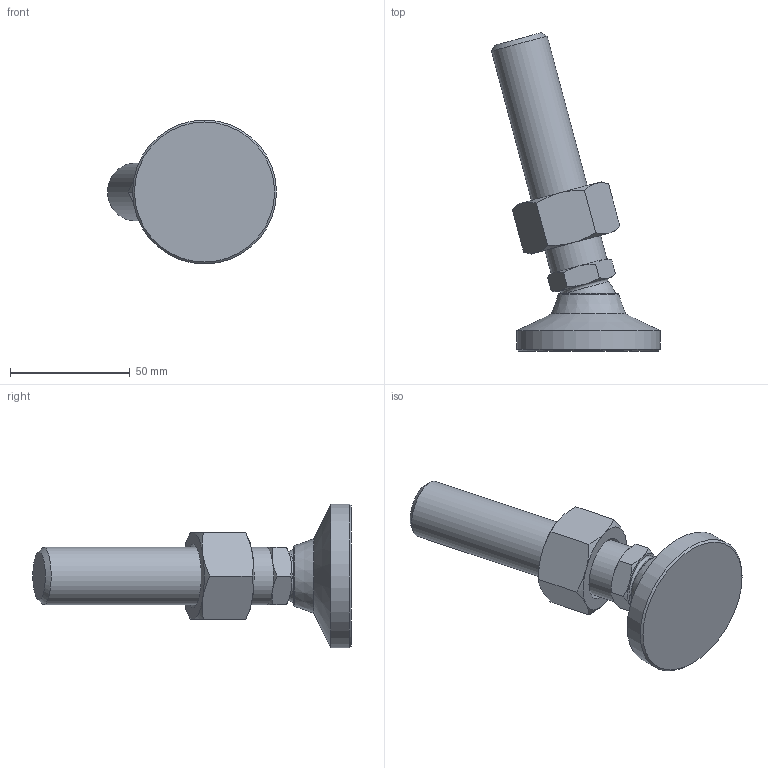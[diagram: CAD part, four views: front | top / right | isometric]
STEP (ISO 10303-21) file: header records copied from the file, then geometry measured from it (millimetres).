
FILE_DESCRIPTION( ( 'STEP AP214' ), ' ' );
FILE_NAME( 'O:/ganter_2015/teil_2/2_5/gn343_2/gn343_2_os/Levelling foot with threaded stud GN 343.2-60-M24-98-OS-(15).stp', '2015-10-26T09:09:02', ( '' ), ( '' ), ' ', 'PARTsolutions', ' ' );
FILE_SCHEMA( ( 'AUTOMOTIVE_DESIGN { 1 0 10303 214 1 1 1 1 }' ) );
Length unit declared in the file: millimetre
Products named in the file (4): Levelling foot with threaded stud GN 343.2-60-M24-98-OS-(15); _Levelling foot with threaded stud GN 343.2-60-M24-98-OS-(15)_foot; _Levelling foot with threaded stud GN 343.2-60-M24-98-OS-(15)_screw; _Stainless Steel-Levelling feet GN 343.2-60-M24-98-OS-(15)_nut
Assembly tree (3 placements, depth 2):
  Levelling foot with threaded stud GN 343.2-60-M24-98-OS-(15)
    _Levelling foot with threaded stud GN 343.2-60-M24-98-OS-(15)_foot
    _Levelling foot with threaded stud GN 343.2-60-M24-98-OS-(15)_screw
    _Stainless Steel-Levelling feet GN 343.2-60-M24-98-OS-(15)_nut
Bounding box: 70.44 x 132.72 x 60 mm (x, y, z)
Volume: 106970.1 mm3; surface area: 24013.8 mm2
Topology: 3 solids, 3 shells, 55 faces, 116 edges, 67 vertices
Faces by surface type: cone 30, plane 18, cylinder 3, torus 2, sphere 2
Full cylindrical faces by diameter (mm): 20.752 x1, 24 x1, 60 x1
Entity records: 2078 total; most frequent: CARTESIAN_POINT 535, DIRECTION 208, ORIENTED_EDGE 198, EDGE_CURVE 99, AXIS2_PLACEMENT_3D 98, EDGE_LOOP 70, VERTEX_POINT 65, FACE_OUTER_BOUND 60
